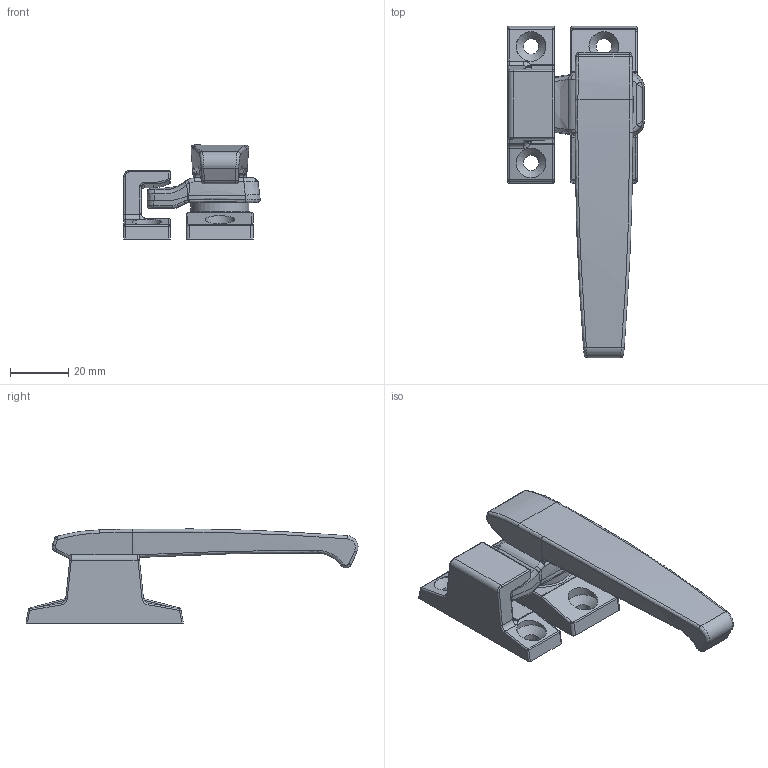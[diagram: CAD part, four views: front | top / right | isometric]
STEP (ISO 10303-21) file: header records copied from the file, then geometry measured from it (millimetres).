
FILE_DESCRIPTION((''),'2;1');
FILE_NAME('C:\Users\G1042U\Desktop\一時保存\20190204_APPIT 3D修正\EL-105S-1_修正.stp','2019-02-05T16:43:36',('G1015U'),(''),'Autodesk Inventor 2013','Autodesk Inventor 2013','');
FILE_SCHEMA(('AUTOMOTIVE_DESIGN { 1 0 10303 214 1 1 1 1 }'));
Length unit declared in the file: millimetre
Products named in the file (7): EL-105S-1_修正; 台座; CAM; HANDLE; ビス; ホルダー; 受け
Assembly tree (6 placements, depth 2):
  EL-105S-1_修正
    台座
    CAM
    HANDLE
    ビス
    ホルダー
    受け
Bounding box: 46.87 x 113.99 x 32.29 mm (x, y, z)
Volume: 32754.1 mm3; surface area: 20874.6 mm2
Topology: 6 solids, 6 shells, 728 faces, 1775 edges, 1058 vertices
Faces by surface type: cylinder 278, plane 204, bspline 149, sphere 46, torus 34, cone 17
Full cylindrical faces by diameter (mm): 4.917 x1, 5.3 x4, 6 x1, 6.2 x1, 6.3 x1, 10.2 x4, 11.5 x1, 11.7 x1, 14.3 x1, 14.5 x1, 15 x1, 19.5 x1, 20 x2
Entity records: 28461 total; most frequent: CARTESIAN_POINT 12020, ORIENTED_EDGE 3432, DIRECTION 3325, EDGE_CURVE 1716, AXIS2_PLACEMENT_3D 1284, VERTEX_POINT 1044, EDGE_LOOP 786, VECTOR 757
